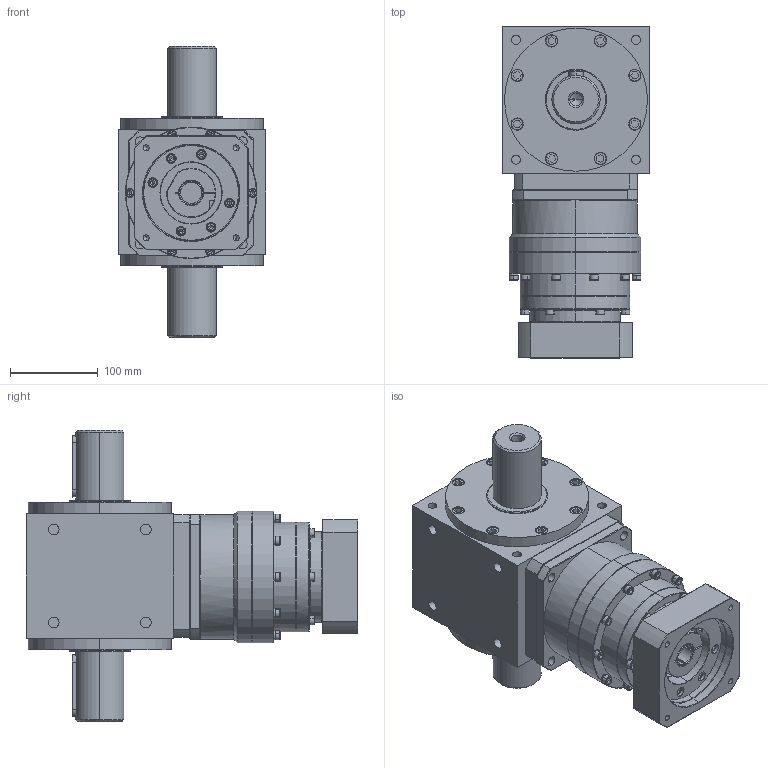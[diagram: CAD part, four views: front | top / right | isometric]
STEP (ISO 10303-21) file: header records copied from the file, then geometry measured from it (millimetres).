
FILE_DESCRIPTION (( 'STEP AP203' ), '1' );
FILE_NAME ('AAW165AS-L2-2P 24-110-145-M8.STEP', '2024-12-16T05:50:01', ( '' ), ( '' ), 'SwSTEP 2.0', 'SolidWorks 2021', '' );
FILE_SCHEMA (( 'CONFIG_CONTROL_DESIGN' ));
Length unit declared in the file: millimetre
Products named in the file (3): AAW165AS-2P; KS142L2-110-24-62-M8-145俋倛芞; AAW165AS-L2-2P 24-110-145-M8
Assembly tree (2 placements, depth 2):
  AAW165AS-L2-2P 24-110-145-M8
    AAW165AS-2P
    KS142L2-110-24-62-M8-145俋倛芞
Bounding box: 168 x 378 x 332 mm (x, y, z)
Volume: 8156726.6 mm3; surface area: 542618.7 mm2
Topology: 52 solids, 52 shells, 1676 faces, 3962 edges, 2470 vertices
Faces by surface type: plane 773, cylinder 602, cone 247, bspline 54
Entity records: 49187 total; most frequent: CARTESIAN_POINT 10148, DIRECTION 8506, ORIENTED_EDGE 7732, EDGE_CURVE 3866, AXIS2_PLACEMENT_3D 3274, VERTEX_POINT 2470, LINE 1958, VECTOR 1958
